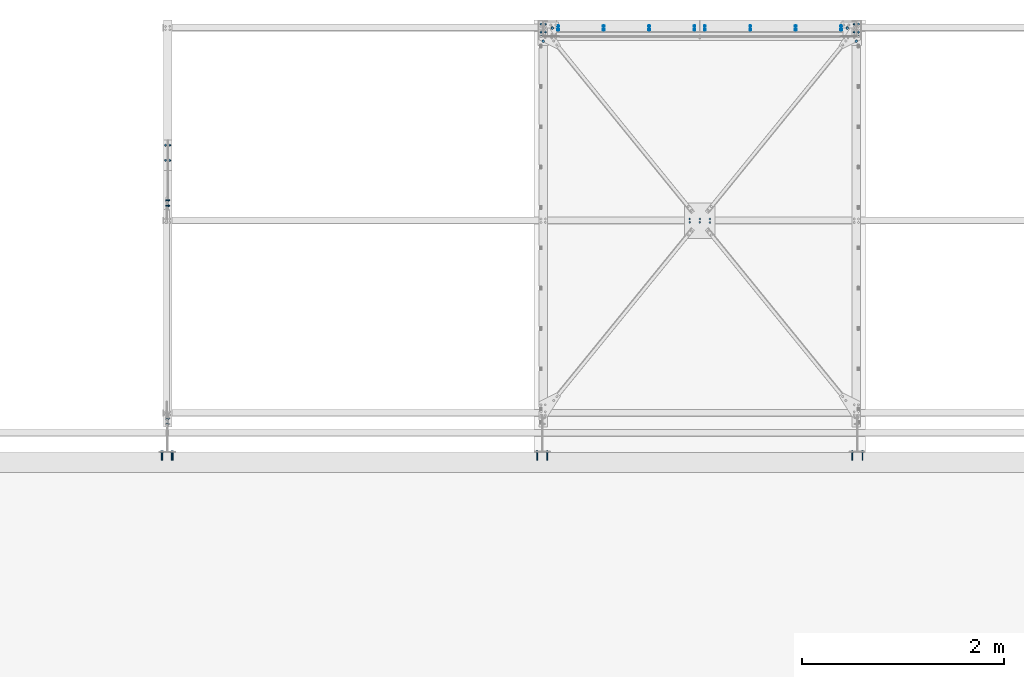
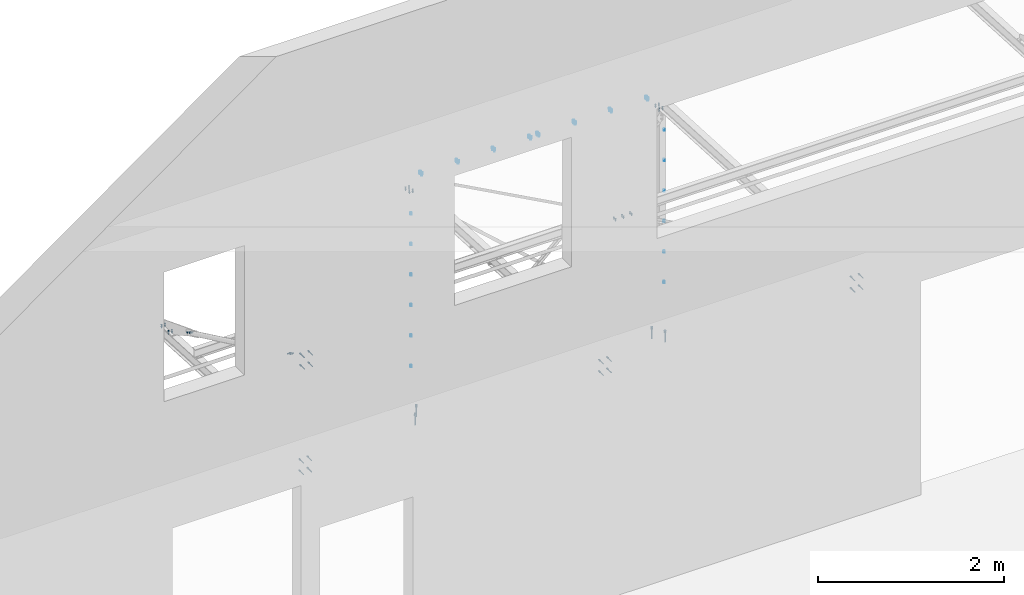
# One storey, part 6 of 10: 18 mechanical fasteners.
"""IFC2X3 building model written with IfcOpenShell, lengths in millimetres."""

from ifc_helpers import new_model, si_unit, frame, frame_2d, origin_with_axes, origin_2d_with_axis, place, context, subcontext, project, spatial, polyline, circle_curve, parameter, trimmed, segment, composite_curve, circle, outline, extrude, source, transform, mapped, material, type_object, element, save


model = new_model("IFC2X3")

# Units and contexts
model_context = context("Model", 3, precision=1e-05, world=origin_with_axes())
body_context = subcontext(model_context, "Body", "Model", "MODEL_VIEW")
ifc_project = project(units=[si_unit("LENGTHUNIT", "METRE", prefix="MILLI"), si_unit("AREAUNIT", "SQUARE_METRE"), si_unit("VOLUMEUNIT", "CUBIC_METRE"), si_unit("MASSUNIT", "GRAM", prefix="KILO"), si_unit("TIMEUNIT", "SECOND"), si_unit("PLANEANGLEUNIT", "RADIAN"), si_unit("SOLIDANGLEUNIT", "STERADIAN"), si_unit("THERMODYNAMICTEMPERATUREUNIT", "DEGREE_CELSIUS"), si_unit("LUMINOUSINTENSITYUNIT", "LUMEN")], contexts=[model_context])

# Site, building, storey
site_placement = place(None, origin_with_axes())
site = spatial("IfcSite", under=ifc_project, at=site_placement, Name="Undefined", CompositionType="ELEMENT")
building_placement = place(site_placement, origin_with_axes())
building = spatial("IfcBuilding", under=site, at=building_placement, Name="Undefined", CompositionType="ELEMENT")
storey_placement = place(building_placement, origin_with_axes())
storey = spatial("IfcBuildingStorey", under=building, at=storey_placement, Name="Undefined", CompositionType="ELEMENT", Elevation=0.0)

# Mechanical fasteners
ifc_material_1 = material(Name="#_SB-8.8-ZINGUE")
mechanical_fastener_type = type_object("IfcMechanicalFastenerType", Name="Bolt assembly")
shared_shape_1 = source(origin_with_axes(), body_context, "Body", "SweptSolid", [
    extrude(outline(composite_curve([segment(polyline([(-7.0, 7.0), (7.0, 7.0)]), True, "CONTINUOUS"), segment(trimmed(circle_curve(frame_2d((7.0, 0.0), x_axis=(0.0, 1.0)), 7.0), [parameter(0.0)], [parameter(3.14159265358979)], False, "PARAMETER"), True, "CONTINUOUS"), segment(polyline([(7.0, -7.0), (-7.0, -7.0)]), True, "CONTINUOUS"), segment(trimmed(circle_curve(frame_2d((-7.0, 0.0), x_axis=(0.0, -1.0)), 7.0), [parameter(0.0)], [parameter(3.14159265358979)], False, "PARAMETER"), True, "DISCONTINUOUS")], self_intersect=False)), frame((0.0, -7.40002311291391, 0.0), z_axis=(0.0, 1.0, 0.0), x_axis=(1.0, 0.0, 0.0)), (0.0, 0.0, 1.0), 7.5),
])
mechanical_fastener_1_placement = place(storey_placement, frame((32024.0000011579, 29160.000066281, 409.999999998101), z_axis=(1.0, 0.0, 0.0), x_axis=(0.0, 0.0, 1.0)))
element("IfcMechanicalFastener", 1, at=mechanical_fastener_1_placement, inside=storey, type_object=mechanical_fastener_type, material=ifc_material_1, Name="Bolt assembly", NominalDiameter=12.0, NominalLength=7.40000009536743, context=body_context, shape_type="MappedRepresentation", body=[
    mapped(shared_shape_1, transform((0.0, 0.0, 0.0))),
    mapped(shared_shape_1, transform((400.0, 0.0, 0.0))),
    mapped(shared_shape_1, transform((800.0, 0.0, 0.0))),
    mapped(shared_shape_1, transform((1200.0, 0.0, 0.0))),
    mapped(shared_shape_1, transform((1600.0, 0.0, 0.0))),
    mapped(shared_shape_1, transform((2000.0, 0.0, 0.0))),
])
shared_shape_2 = source(origin_with_axes(), body_context, "Body", "SweptSolid", [
    extrude(outline(composite_curve([segment(polyline([(-7.0, 7.0), (7.0, 7.0)]), True, "CONTINUOUS"), segment(trimmed(circle_curve(frame_2d((7.0, 0.0), x_axis=(0.0, 1.0)), 7.0), [parameter(0.0)], [parameter(3.14159265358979)], False, "PARAMETER"), True, "CONTINUOUS"), segment(polyline([(7.0, -7.0), (-7.0, -7.0)]), True, "CONTINUOUS"), segment(trimmed(circle_curve(frame_2d((-7.0, 0.0), x_axis=(0.0, -1.0)), 7.0), [parameter(0.0)], [parameter(3.14159265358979)], False, "PARAMETER"), True, "DISCONTINUOUS")], self_intersect=False)), frame((0.0, -7.40002311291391, 0.0), z_axis=(0.0, 1.0, 0.0), x_axis=(1.0, 0.0, 0.0)), (0.0, 0.0, 1.0), 7.5),
])
mechanical_fastener_2_placement = place(storey_placement, frame((28882.0000011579, 29160.0000663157, 409.999999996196), z_axis=(1.0, 0.0, 0.0), x_axis=(0.0, 0.0, 1.0)))
element("IfcMechanicalFastener", 2, at=mechanical_fastener_2_placement, inside=storey, type_object=mechanical_fastener_type, material=ifc_material_1, Name="Bolt assembly", NominalDiameter=12.0, NominalLength=7.40000009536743, context=body_context, shape_type="MappedRepresentation", body=[
    mapped(shared_shape_2, transform((0.0, 0.0, 0.0))),
    mapped(shared_shape_2, transform((400.0, 0.0, 0.0))),
    mapped(shared_shape_2, transform((800.0, 0.0, 0.0))),
    mapped(shared_shape_2, transform((1200.0, 0.0, 0.0))),
    mapped(shared_shape_2, transform((1600.0, 0.0, 0.0))),
    mapped(shared_shape_2, transform((2000.0, 0.0, 0.0))),
])
ifc_material_2 = material(Name="6.8")
shared_shape_3 = source(origin_with_axes(), body_context, "Body", "SweptSolid", [
    extrude(circle(Radius=6.0, at=origin_2d_with_axis()), frame((0.0, -6.19999893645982, 0.0), z_axis=(0.0, 1.0, 0.0), x_axis=(1.0, 0.0, 0.0)), (0.0, 0.0, 1.0), 6.3),
    extrude(circle(Radius=6.0, at=origin_2d_with_axis()), frame((0.0, -0.100005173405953, 0.0), z_axis=(0.0, 1.0, 0.0), x_axis=(1.0, 0.0, 0.0)), (0.0, 0.0, 1.0), 3.1),
    extrude(outline(polyline([(9.81495457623, 0.0), (4.907477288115, 8.5000000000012), (-4.907477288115, 8.5000000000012), (-9.81495457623, 0.0), (-4.907477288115, -8.5000000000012), (4.907477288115, -8.5000000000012), (9.81495457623, 0.0)])), frame((0.0, -13.7999989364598, 0.0), z_axis=(0.0, 1.0, 0.0), x_axis=(1.0, 0.0, 0.0)), (0.0, 0.0, 1.0), 7.5),
    extrude(circle(Radius=5.0, at=origin_2d_with_axis()), frame((0.0, -6.29999893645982, 0.0), z_axis=(0.0, 1.0, 0.0), x_axis=(1.0, 0.0, 0.0)), (0.0, 0.0, 1.0), 30.0),
    extrude(outline(polyline([(9.23760430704, 0.0), (4.61880215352, 8.00000000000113), (-4.61880215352, 8.00000000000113), (-9.23760430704, 0.0), (-4.61880215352, -8.00000000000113), (4.61880215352, -8.00000000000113), (9.23760430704, 0.0)])), frame((0.0, 3.00000415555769, 0.0), z_axis=(0.0, 1.0, 0.0), x_axis=(1.0, 0.0, 0.0)), (0.0, 0.0, 1.0), 8.4),
])
for number, where, z_axis, x_axis, name in (
    (3, (31178.9999524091, 29223.0233444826, 2838.88925744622), (-1.0, 0.0, 0.0), (-6.99999093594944e-09, 0.998630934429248, -0.0523092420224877), "Bolt assembly"),
    (4, (29726.9999546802, 29223.0233444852, 2838.88925744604), (-1.0, 0.0, 0.0), (-6.99999093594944e-09, 0.998630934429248, -0.0523092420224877), "Bolt assembly"),
):
    element("IfcMechanicalFastener", number, at=place(storey_placement, frame(where, z_axis=z_axis, x_axis=x_axis)), inside=storey, type_object=mechanical_fastener_type, material=ifc_material_2, Name=name, NominalDiameter=10.0, NominalLength=30.0, context=body_context, shape_type="MappedRepresentation", body=[
        mapped(shared_shape_3, transform((-1.49884726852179e-09, -1.84627424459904e-09, -675.0))),
        mapped(shared_shape_3, transform((33.9999999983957, -1.84900272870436e-09, -675.000000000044))),
        mapped(shared_shape_3, transform((-4.98403096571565e-10, -6.15727913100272e-10, -225.0))),
        mapped(shared_shape_3, transform((33.9999999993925, -6.19365891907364e-10, -225.000000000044))),
        mapped(shared_shape_3, transform((4.98403096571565e-10, 6.14818418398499e-10, 225.0))),
        mapped(shared_shape_3, transform((34.0000000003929, 6.12089934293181e-10, 224.999999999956))),
        mapped(shared_shape_3, transform((1.50248524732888e-09, 1.84536474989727e-09, 675.0))),
        mapped(shared_shape_3, transform((34.0000000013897, 1.84263626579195e-09, 674.999999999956))),
    ])
ifc_material_3 = material(Name="8.8-SB-GALVA")
shared_shape_4 = source(origin_with_axes(), body_context, "Body", "SweptSolid", [
    extrude(circle(Radius=7.0, at=origin_2d_with_axis()), frame((0.0, -7.29999968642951, 0.0), z_axis=(0.0, 1.0, 0.0), x_axis=(1.0, 0.0, 0.0)), (0.0, 0.0, 1.0), 7.4),
    extrude(circle(Radius=7.0, at=origin_2d_with_axis()), frame((0.0, -0.100005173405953, 0.0), z_axis=(0.0, 1.0, 0.0), x_axis=(1.0, 0.0, 0.0)), (0.0, 0.0, 1.0), 10.1),
    extrude(outline(polyline([(10.39230484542, 0.0), (5.19615242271, 9.00000000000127), (-5.19615242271, 9.00000000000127), (-10.39230484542, 0.0), (-5.19615242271, -9.00000000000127), (5.19615242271, -9.00000000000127), (10.39230484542, 0.0)])), frame((0.0, -15.3199996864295, 0.0), z_axis=(0.0, 1.0, 0.0), x_axis=(1.0, 0.0, 0.0)), (0.0, 0.0, 1.0), 7.92),
    extrude(circle(Radius=6.0, at=origin_2d_with_axis()), frame((0.0, -7.40002311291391, 0.0), z_axis=(0.0, 1.0, 0.0), x_axis=(1.0, 0.0, 0.0)), (0.0, 0.0, 1.0), 40.0),
    extrude(outline(polyline([(11.5008173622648, 0.0), (5.7504086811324, 9.96000000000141), (-5.7504086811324, 9.96000000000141), (-11.5008173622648, 0.0), (-5.7504086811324, -9.96000000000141), (5.7504086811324, -9.96000000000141), (11.5008173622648, 0.0)])), frame((0.0, 9.99999999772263, 0.0), z_axis=(0.0, 1.0, 0.0), x_axis=(1.0, 0.0, 0.0)), (0.0, 0.0, 1.0), 7.92),
])
for number, where, z_axis, x_axis, name in (
    (5, (28902.9999703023, 29199.0803220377, 2679.92406383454), (-1.0, 0.0, 0.0), (-6.99999093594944e-09, 0.998630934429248, -0.0523092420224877), "Bolt assembly"),
    (6, (32002.9999703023, 29199.0803220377, 2679.92406383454), (-1.0, 0.0, 0.0), (-6.99999093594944e-09, 0.998630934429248, -0.0523092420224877), "Bolt assembly"),
):
    element("IfcMechanicalFastener", number, at=place(storey_placement, frame(where, z_axis=z_axis, x_axis=x_axis)), inside=storey, type_object=mechanical_fastener_type, material=ifc_material_3, Name=name, NominalDiameter=12.0, NominalLength=40.0, context=body_context, shape_type="MappedRepresentation", body=[
        mapped(shared_shape_4, transform((0.0, 0.0, -21.0))),
        mapped(shared_shape_4, transform((80.0000000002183, -6.73026079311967e-11, -21.0))),
        mapped(shared_shape_4, transform((0.0, 0.0, 21.0))),
        mapped(shared_shape_4, transform((80.0000000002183, -6.73026079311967e-11, 21.0))),
    ])
shared_shape_5 = source(origin_with_axes(), body_context, "Body", "SweptSolid", [
    extrude(circle(Radius=6.0, at=origin_2d_with_axis()), frame((0.0, -6.19999893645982, 0.0), z_axis=(0.0, 1.0, 0.0), x_axis=(1.0, 0.0, 0.0)), (0.0, 0.0, 1.0), 6.3),
    extrude(circle(Radius=6.0, at=origin_2d_with_axis()), frame((0.0, -0.100005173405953, 0.0), z_axis=(0.0, 1.0, 0.0), x_axis=(1.0, 0.0, 0.0)), (0.0, 0.0, 1.0), 5.1),
    extrude(outline(polyline([(9.81495457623, 0.0), (4.907477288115, 8.5000000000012), (-4.907477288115, 8.5000000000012), (-9.81495457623, 0.0), (-4.907477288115, -8.5000000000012), (4.907477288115, -8.5000000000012), (9.81495457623, 0.0)])), frame((0.0, -13.7999989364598, 0.0), z_axis=(0.0, 1.0, 0.0), x_axis=(1.0, 0.0, 0.0)), (0.0, 0.0, 1.0), 7.5),
    extrude(circle(Radius=5.0, at=origin_2d_with_axis()), frame((0.0, -6.29999893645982, 0.0), z_axis=(0.0, 1.0, 0.0), x_axis=(1.0, 0.0, 0.0)), (0.0, 0.0, 1.0), 30.0),
    extrude(outline(polyline([(9.23760430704, 0.0), (4.61880215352, 8.00000000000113), (-4.61880215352, 8.00000000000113), (-9.23760430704, 0.0), (-4.61880215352, -8.00000000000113), (4.61880215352, -8.00000000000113), (9.23760430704, 0.0)])), frame((0.0, 4.99999482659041, 0.0), z_axis=(0.0, 1.0, 0.0), x_axis=(1.0, 0.0, 0.0)), (0.0, 0.0, 1.0), 8.4),
])
mechanical_fastener_3_placement = place(storey_placement, frame((30452.9999538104, 27349.5897730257, 2937.02148681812), z_axis=(1.0, 0.0, 0.0), x_axis=(0.0, -0.998630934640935, 0.0523092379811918)))
element("IfcMechanicalFastener", 7, at=mechanical_fastener_3_placement, inside=storey, type_object=mechanical_fastener_type, material=ifc_material_2, Name="Bolt assembly", NominalDiameter=10.0, NominalLength=30.0, context=body_context, shape_type="MappedRepresentation", body=[
    mapped(shared_shape_5, transform((-2.18278728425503e-10, 2.72848410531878e-10, -100.0))),
    mapped(shared_shape_5, transform((33.9999999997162, 3.36513039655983e-10, -100.000000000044))),
    mapped(shared_shape_5, transform((0.0, 0.0, 0.0))),
    mapped(shared_shape_5, transform((33.9999999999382, 6.2755134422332e-11, -4.36557456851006e-11))),
    mapped(shared_shape_5, transform((2.25554686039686e-10, -2.73757905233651e-10, 100.0))),
    mapped(shared_shape_5, transform((34.0000000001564, -2.11002770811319e-10, 99.9999999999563))),
])
ifc_material_4 = material(Name="HILTI-HSA-R")
shared_shape_6 = source(origin_with_axes(), body_context, "Body", "SweptSolid", [
    extrude(circle(Radius=7.0, at=origin_2d_with_axis()), frame((0.0, -9.99992439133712, 0.0), z_axis=(0.0, 1.0, 0.0), x_axis=(1.0, 0.0, 0.0)), (0.0, 0.0, 1.0), 10.1),
    extrude(outline(polyline([(10.39230484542, 0.0), (5.19615242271, 9.00000000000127), (-5.19615242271, 9.00000000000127), (-10.39230484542, 0.0), (-5.19615242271, -9.00000000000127), (5.19615242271, -9.00000000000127), (10.39230484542, 0.0)])), frame((0.0, -17.9199243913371, 0.0), z_axis=(0.0, 1.0, 0.0), x_axis=(1.0, 0.0, 0.0)), (0.0, 0.0, 1.0), 7.92),
    extrude(circle(Radius=6.0, at=origin_2d_with_axis()), frame((0.0, -9.99992439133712, 0.0), z_axis=(0.0, 1.0, 0.0), x_axis=(1.0, 0.0, 0.0)), (0.0, 0.0, 1.0), 89.2),
    extrude(outline(polyline([(11.5008173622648, 0.0), (5.7504086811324, 9.96000000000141), (-5.7504086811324, 9.96000000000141), (-11.5008173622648, 0.0), (-5.7504086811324, -9.96000000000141), (5.7504086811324, -9.96000000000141), (11.5008173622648, 0.0)])), frame((0.0, 7.56086665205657e-05, 0.0), z_axis=(0.0, 1.0, 0.0), x_axis=(1.0, 0.0, 0.0)), (0.0, 0.0, 1.0), 7.92),
])
mechanical_fastener_4_placement = place(storey_placement, frame((28893.0000296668, 25040.0000000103, 3000.00032537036), z_axis=(-1.0, 0.0, 0.0), x_axis=(1.80000123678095e-08, 0.0, -1.0)))
element("IfcMechanicalFastener", 8, at=mechanical_fastener_4_placement, inside=storey, type_object=mechanical_fastener_type, material=ifc_material_4, Name="Bolt assembly", NominalDiameter=12.0, NominalLength=89.1999969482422, context=body_context, shape_type="MappedRepresentation", body=[
    mapped(shared_shape_6, transform((0.0, 0.0, 50.0))),
    mapped(shared_shape_6, transform((150.0, 0.0, 50.0))),
    mapped(shared_shape_6, transform((0.0, 0.0, -50.0))),
    mapped(shared_shape_6, transform((150.0, 0.0, -50.0))),
])
mechanical_fastener_5_placement = place(storey_placement, frame((32012.9999703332, 25040.0000000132, 3000.00032537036), z_axis=(-1.0, 0.0, 0.0), x_axis=(1.80000123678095e-08, 0.0, -1.0)))
element("IfcMechanicalFastener", 9, at=mechanical_fastener_5_placement, inside=storey, type_object=mechanical_fastener_type, material=ifc_material_4, Name="Bolt assembly", NominalDiameter=12.0, NominalLength=89.1999969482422, context=body_context, shape_type="MappedRepresentation", body=[
    mapped(shared_shape_6, transform((0.0, 0.0, -50.0))),
    mapped(shared_shape_6, transform((150.0, 0.0, -50.0))),
    mapped(shared_shape_6, transform((0.0, 0.0, 50.0))),
    mapped(shared_shape_6, transform((150.0, 0.0, 50.0))),
])
for number, where, z_axis, x_axis, name in (
    (10, (25185.0000296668, 25039.9999999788, 4380.00032537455), (-1.0, 0.0, 0.0), (1.80000123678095e-08, 0.0, -1.0), "Bolt assembly"),
    (11, (25175.0000296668, 25040.0000000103, 3000.00032537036), (-1.0, 0.0, 0.0), (1.80000123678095e-08, 0.0, -1.0), "Bolt assembly"),
):
    element("IfcMechanicalFastener", number, at=place(storey_placement, frame(where, z_axis=z_axis, x_axis=x_axis)), inside=storey, type_object=mechanical_fastener_type, material=ifc_material_4, Name=name, NominalDiameter=12.0, NominalLength=89.1999969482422, context=body_context, shape_type="MappedRepresentation", body=[
        mapped(shared_shape_6, transform((0.0, 0.0, 50.0))),
        mapped(shared_shape_6, transform((150.0, 0.0, 50.0))),
        mapped(shared_shape_6, transform((0.0, 0.0, -50.0))),
        mapped(shared_shape_6, transform((150.0, 0.0, -50.0))),
    ])
shared_shape_7 = source(origin_with_axes(), body_context, "Body", "SweptSolid", [
    extrude(circle(Radius=7.0, at=origin_2d_with_axis()), frame((0.0, -0.100005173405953, 0.0), z_axis=(0.0, 1.0, 0.0), x_axis=(1.0, 0.0, 0.0)), (0.0, 0.0, 1.0), 7.5),
    extrude(circle(Radius=7.0, at=origin_2d_with_axis()), frame((0.0, -9.89999977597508, 0.0), z_axis=(0.0, 1.0, 0.0), x_axis=(1.0, 0.0, 0.0)), (0.0, 0.0, 1.0), 10.0),
    extrude(outline(polyline([(10.39230484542, 0.0), (5.19615242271, 9.00000000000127), (-5.19615242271, 9.00000000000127), (-10.39230484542, 0.0), (-5.19615242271, -9.00000000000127), (5.19615242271, -9.00000000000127), (10.39230484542, 0.0)])), frame((0.0, -17.9199997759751, 0.0), z_axis=(0.0, 1.0, 0.0), x_axis=(1.0, 0.0, 0.0)), (0.0, 0.0, 1.0), 7.92),
    extrude(circle(Radius=6.0, at=origin_2d_with_axis()), frame((0.0, -9.99999892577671, 0.0), z_axis=(0.0, 1.0, 0.0), x_axis=(1.0, 0.0, 0.0)), (0.0, 0.0, 1.0), 40.0),
    extrude(outline(polyline([(11.5008173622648, 0.0), (5.7504086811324, 9.96000000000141), (-5.7504086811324, 9.96000000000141), (-11.5008173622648, 0.0), (-5.7504086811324, -9.96000000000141), (5.7504086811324, -9.96000000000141), (11.5008173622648, 0.0)])), frame((0.0, 7.40000130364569, 0.0), z_axis=(0.0, 1.0, 0.0), x_axis=(1.0, 0.0, 0.0)), (0.0, 0.0, 1.0), 7.92),
])
mechanical_fastener_6_placement = place(storey_placement, frame((25185.0000287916, 27931.056061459, 2906.5637322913), z_axis=(-1.0, 0.0, 0.0), x_axis=(-6.99999093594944e-09, 0.998630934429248, -0.0523092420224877)))
element("IfcMechanicalFastener", 12, at=mechanical_fastener_6_placement, inside=storey, type_object=mechanical_fastener_type, material=ifc_material_3, Name="Bolt assembly", NominalDiameter=12.0, NominalLength=40.0, context=body_context, shape_type="MappedRepresentation", body=[
    mapped(shared_shape_7, transform((0.0, 0.0, 21.0))),
    mapped(shared_shape_7, transform((150.000000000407, -1.25510268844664e-10, 21.0))),
    mapped(shared_shape_7, transform((0.0, 0.0, -21.0))),
    mapped(shared_shape_7, transform((150.000000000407, -1.25510268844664e-10, -21.0))),
])
shared_shape_8 = source(origin_with_axes(), body_context, "Body", "SweptSolid", [
    extrude(circle(Radius=7.0, at=origin_2d_with_axis()), frame((0.0, -5.1000000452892, 0.0), z_axis=(0.0, 1.0, 0.0), x_axis=(1.0, 0.0, 0.0)), (0.0, 0.0, 1.0), 10.1),
    extrude(circle(Radius=7.0, at=origin_2d_with_axis()), frame((0.0, -14.9, 0.0), z_axis=(0.0, 1.0, 0.0), x_axis=(1.0, 0.0, 0.0)), (0.0, 0.0, 1.0), 10.0),
    extrude(outline(polyline([(10.39230484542, 0.0), (5.19615242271, 9.00000000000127), (-5.19615242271, 9.00000000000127), (-10.39230484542, 0.0), (-5.19615242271, -9.00000000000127), (5.19615242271, -9.00000000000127), (10.39230484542, 0.0)])), frame((0.0, -22.92, 0.0), z_axis=(0.0, 1.0, 0.0), x_axis=(1.0, 0.0, 0.0)), (0.0, 0.0, 1.0), 7.92),
    extrude(circle(Radius=6.0, at=origin_2d_with_axis()), frame((0.0, -15.0, 0.0), z_axis=(0.0, 1.0, 0.0), x_axis=(1.0, 0.0, 0.0)), (0.0, 0.0, 1.0), 40.0),
    extrude(outline(polyline([(11.5008173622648, 0.0), (5.7504086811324, 9.96000000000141), (-5.7504086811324, 9.96000000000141), (-11.5008173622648, 0.0), (-5.7504086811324, -9.96000000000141), (5.7504086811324, -9.96000000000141), (11.5008173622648, 0.0)])), frame((0.0, 4.99999482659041, 0.0), z_axis=(0.0, 1.0, 0.0), x_axis=(1.0, 0.0, 0.0)), (0.0, 0.0, 1.0), 7.92),
])
for number, where, z_axis, x_axis, name in (
    (13, (25185.0000297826, 25321.5814427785, 4195.49751229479), (0.0, -0.431020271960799, -0.902342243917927), (0.0, 0.902342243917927, -0.431020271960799), "Bolt assembly"),
    (14, (25185.0000292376, 27534.9082720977, 3138.26148197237), (0.0, 0.431020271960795, 0.902342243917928), (0.0, -0.902342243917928, 0.431020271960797), "Bolt assembly"),
):
    element("IfcMechanicalFastener", number, at=place(storey_placement, frame(where, z_axis=z_axis, x_axis=x_axis)), inside=storey, type_object=mechanical_fastener_type, material=ifc_material_3, Name=name, NominalDiameter=12.0, NominalLength=40.0, context=body_context, shape_type="MappedRepresentation", body=[
        mapped(shared_shape_8, transform((0.0, 0.0, 0.0))),
        mapped(shared_shape_8, transform((59.9999999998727, 0.0, 2.18278728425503e-11))),
    ])
ifc_material_5 = material(Name="HILTI-HST-R")
shared_shape_9 = source(origin_with_axes(), body_context, "Body", "SweptSolid", [
    extrude(circle(Radius=9.0, at=origin_2d_with_axis()), frame((0.0, -9.99999892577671, 0.0), z_axis=(0.0, 1.0, 0.0), x_axis=(1.0, 0.0, 0.0)), (0.0, 0.0, 1.0), 10.1),
    extrude(outline(polyline([(13.85640646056, 0.0), (6.92820323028, 12.0000000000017), (-6.92820323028, 12.0000000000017), (-13.85640646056, 0.0), (-6.92820323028, -12.0000000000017), (6.92820323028, -12.0000000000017), (13.85640646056, 0.0)])), frame((0.0, -20.56, 0.0), z_axis=(0.0, 1.0, 0.0), x_axis=(1.0, 0.0, 0.0)), (0.0, 0.0, 1.0), 10.56),
    extrude(circle(Radius=8.0, at=origin_2d_with_axis()), frame((0.0, -9.99999892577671, 0.0), z_axis=(0.0, 1.0, 0.0), x_axis=(1.0, 0.0, 0.0)), (0.0, 0.0, 1.0), 146.2),
    extrude(outline(polyline([(15.3344231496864, 0.0), (7.6672115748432, 13.2800000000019), (-7.6672115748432, 13.2800000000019), (-15.3344231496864, 0.0), (-7.6672115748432, -13.2800000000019), (7.6672115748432, -13.2800000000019), (15.3344231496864, 0.0)])), frame((0.0, 0.0, 0.0), z_axis=(0.0, 1.0, 0.0), x_axis=(1.0, 0.0, 0.0)), (0.0, 0.0, 1.0), 10.56),
])
for number, where, z_axis, x_axis, name in (
    (15, (32002.9950232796, 29110.000066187, -200.0), (-1.0, 0.0, 0.0), (0.0, 1.0, 0.0), "Bolt assembly"),
    (16, (31912.9950556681, 29240.0000662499, -200.0), (0.0, 1.0, 0.0), (1.0, 0.0, 0.0), "Bolt assembly"),
    (17, (28902.9999727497, 29110.000066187, -200.0), (-1.0, 0.0, 0.0), (0.0, 1.0, 0.0), "Bolt assembly"),
    (18, (28992.9999403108, 29240.0000662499, -200.0), (-8.92000021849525e-07, -0.999999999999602, 0.0), (-1.0, 0.0, 0.0), "Bolt assembly"),
):
    element("IfcMechanicalFastener", number, at=place(storey_placement, frame(where, z_axis=z_axis, x_axis=x_axis)), inside=storey, type_object=mechanical_fastener_type, material=ifc_material_5, Name=name, NominalDiameter=16.0, NominalLength=146.199996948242, context=body_context, shape_type="MappedRepresentation", body=[
        mapped(shared_shape_9, transform((0.0, 0.0, 0.0))),
    ])

save(model, "model.ifc")
